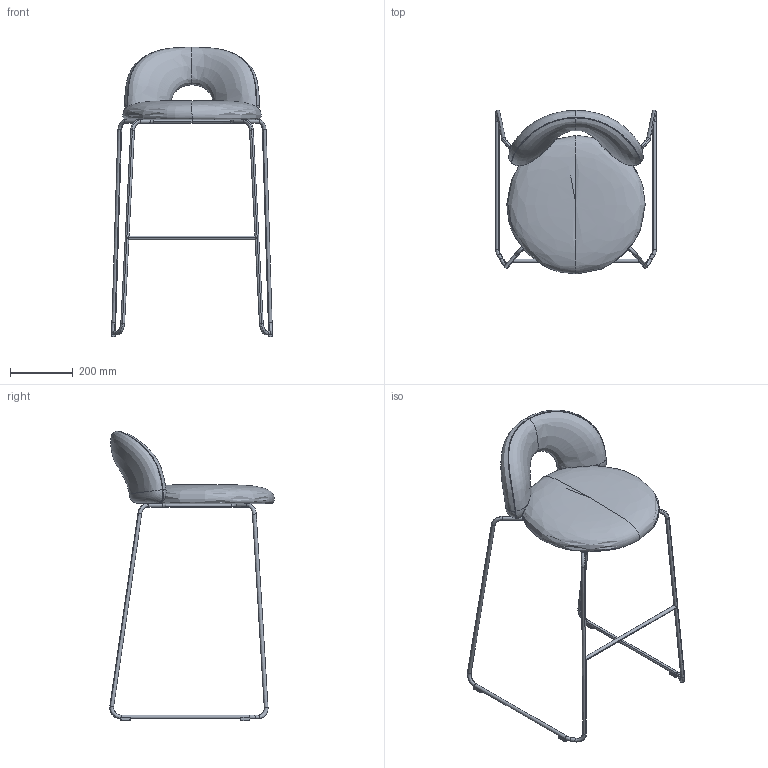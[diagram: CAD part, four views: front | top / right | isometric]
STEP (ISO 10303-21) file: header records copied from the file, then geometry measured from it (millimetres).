
FILE_DESCRIPTION(/* description */ (''),/* implementation_level */ '2;1');
FILE_NAME(/* name */ 'Paulin_SL_SG_75_PabloReganoStudio',/* time_stamp */ '2026-04-02T07:30:00+02:00',/* author */ (''),/* organization */ (''),/* preprocessor_version */ 'ST-DEVELOPER v19.2',/* originating_system */ 'Rhino 8.5',/* authorisation */ '');
FILE_SCHEMA (('AP242_MANAGED_MODEL_BASED_3D_ENGINEERING_MIM_LF { 1 0 10303 442 3 1 4 }'));
Length unit declared in the file: millimetre
Products named in the file (1): Document
Bounding box: 512.75 x 521.97 x 919.41 mm (x, y, z)
Volume: 7597652 mm3; surface area: 925044.7 mm2
Topology: 1 solids, 188 shells, 220 faces, 865 edges, 786 vertices
Faces by surface type: bspline 98, cylinder 94, plane 28
Entity records: 59494 total; most frequent: CARTESIAN_POINT 53171, ORIENTED_EDGE 926, EDGE_CURVE 858, DIRECTION 824, VERTEX_POINT 786, AXIS2_PLACEMENT_3D 473, B_SPLINE_CURVE_WITH_KNOTS 376, TRIMMED_CURVE 348
